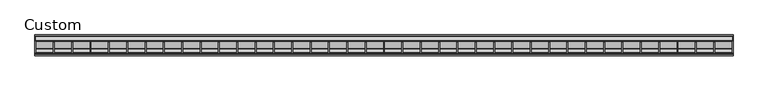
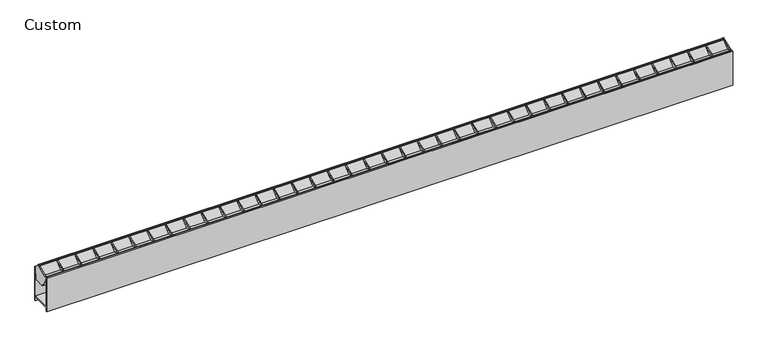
"""IFC4 building model written with IfcOpenShell, lengths in millimetres: light fixture geometry, Lighting-Pendant-Axis-Sculpt-Linear-Wall_Wash : Custom."""

from ifc_helpers import new_model, si_unit, point, frame, frame_2d, origin, place, context, project, spatial, polyline, circle_curve, trimmed, segment, composite_curve, outline, extrude, source, transform, mapped, element, save


def custom_079cd70d(model_context):
    return source(origin(), model_context, "Body", "SweptSolid", [
        extrude(outline(polyline([(-5.8363547, 682.2146029), (-14.2078807, 684.2965748), (-18.4106204, 684.2965748), (-18.4106204, 685.5665748), (-16.744908, 685.5665748), (7.9278061, 695.4099896), (9.8892949, 695.4099896), (-5.8363547, 682.2146029)])), frame((658.6784444, 0.0, 0.0), z_axis=(1.0, 0.0, 0.0), x_axis=(0.0, 1.0, 0.0)), (0.0, 0.0, 1.0), 2.032),
        extrude(outline(polyline([(-5.8363547, 682.2146029), (-14.2078807, 684.2965748), (-18.4106204, 684.2965748), (-18.4106204, 685.5665748), (-16.744908, 685.5665748), (7.9278061, 695.4099896), (9.8892949, 695.4099896), (-5.8363547, 682.2146029)])), frame((619.8728889, 0.0, 0.0), z_axis=(1.0, 0.0, 0.0), x_axis=(0.0, 1.0, 0.0)), (0.0, 0.0, 1.0), 2.032),
        extrude(outline(polyline([(-5.8363547, 682.2146029), (-14.2078807, 684.2965748), (-18.4106204, 684.2965748), (-18.4106204, 685.5665748), (-16.744908, 685.5665748), (7.9278061, 695.4099896), (9.8892949, 695.4099896), (-5.8363547, 682.2146029)])), frame((581.0673333, 0.0, 0.0), z_axis=(1.0, 0.0, 0.0), x_axis=(0.0, 1.0, 0.0)), (0.0, 0.0, 1.0), 2.032),
        extrude(outline(polyline([(-5.8363547, 682.2146029), (-14.2078807, 684.2965748), (-18.4106204, 684.2965748), (-18.4106204, 685.5665748), (-16.744908, 685.5665748), (7.9278061, 695.4099896), (9.8892949, 695.4099896), (-5.8363547, 682.2146029)])), frame((542.2617778, 0.0, 0.0), z_axis=(1.0, 0.0, 0.0), x_axis=(0.0, 1.0, 0.0)), (0.0, 0.0, 1.0), 2.032),
        extrude(outline(polyline([(-5.8363547, 682.2146029), (-14.2078807, 684.2965748), (-18.4106204, 684.2965748), (-18.4106204, 685.5665748), (-16.744908, 685.5665748), (7.9278061, 695.4099896), (9.8892949, 695.4099896), (-5.8363547, 682.2146029)])), frame((503.4562222, 0.0, 0.0), z_axis=(1.0, 0.0, 0.0), x_axis=(0.0, 1.0, 0.0)), (0.0, 0.0, 1.0), 2.032),
        extrude(outline(polyline([(-5.8363547, 682.2146029), (-14.2078807, 684.2965748), (-18.4106204, 684.2965748), (-18.4106204, 685.5665748), (-16.744908, 685.5665748), (7.9278061, 695.4099896), (9.8892949, 695.4099896), (-5.8363547, 682.2146029)])), frame((464.6506667, 0.0, 0.0), z_axis=(1.0, 0.0, 0.0), x_axis=(0.0, 1.0, 0.0)), (0.0, 0.0, 1.0), 2.032),
        extrude(outline(polyline([(-5.8363547, 682.2146029), (-14.2078807, 684.2965748), (-18.4106204, 684.2965748), (-18.4106204, 685.5665748), (-16.744908, 685.5665748), (7.9278061, 695.4099896), (9.8892949, 695.4099896), (-5.8363547, 682.2146029)])), frame((425.8451111, 0.0, 0.0), z_axis=(1.0, 0.0, 0.0), x_axis=(0.0, 1.0, 0.0)), (0.0, 0.0, 1.0), 2.032),
        extrude(outline(polyline([(-5.8363547, 682.2146029), (-14.2078807, 684.2965748), (-18.4106204, 684.2965748), (-18.4106204, 685.5665748), (-16.744908, 685.5665748), (7.9278061, 695.4099896), (9.8892949, 695.4099896), (-5.8363547, 682.2146029)])), frame((387.0395556, 0.0, 0.0), z_axis=(1.0, 0.0, 0.0), x_axis=(0.0, 1.0, 0.0)), (0.0, 0.0, 1.0), 2.032),
        extrude(outline(polyline([(-5.8363547, 682.2146029), (-14.2078807, 684.2965748), (-18.4106204, 684.2965748), (-18.4106204, 685.5665748), (-16.744908, 685.5665748), (7.9278061, 695.4099896), (9.8892949, 695.4099896), (-5.8363547, 682.2146029)])), frame((348.234, 0.0, 0.0), z_axis=(1.0, 0.0, 0.0), x_axis=(0.0, 1.0, 0.0)), (0.0, 0.0, 1.0), 2.032),
        extrude(outline(polyline([(-5.8363547, 682.2146029), (-14.2078807, 684.2965748), (-18.4106204, 684.2965748), (-18.4106204, 685.5665748), (-16.744908, 685.5665748), (7.9278061, 695.4099896), (9.8892949, 695.4099896), (-5.8363547, 682.2146029)])), frame((309.4284444, 0.0, 0.0), z_axis=(1.0, 0.0, 0.0), x_axis=(0.0, 1.0, 0.0)), (0.0, 0.0, 1.0), 2.032),
        extrude(outline(polyline([(-5.8363547, 682.2146029), (-14.2078807, 684.2965748), (-18.4106204, 684.2965748), (-18.4106204, 685.5665748), (-16.744908, 685.5665748), (7.9278061, 695.4099896), (9.8892949, 695.4099896), (-5.8363547, 682.2146029)])), frame((270.6228889, 0.0, 0.0), z_axis=(1.0, 0.0, 0.0), x_axis=(0.0, 1.0, 0.0)), (0.0, 0.0, 1.0), 2.032),
        extrude(outline(polyline([(-5.8363547, 682.2146029), (-14.2078807, 684.2965748), (-18.4106204, 684.2965748), (-18.4106204, 685.5665748), (-16.744908, 685.5665748), (7.9278061, 695.4099896), (9.8892949, 695.4099896), (-5.8363547, 682.2146029)])), frame((231.8173333, 0.0, 0.0), z_axis=(1.0, 0.0, 0.0), x_axis=(0.0, 1.0, 0.0)), (0.0, 0.0, 1.0), 2.032),
        extrude(outline(polyline([(-5.8363547, 682.2146029), (-14.2078807, 684.2965748), (-18.4106204, 684.2965748), (-18.4106204, 685.5665748), (-16.744908, 685.5665748), (7.9278061, 695.4099896), (9.8892949, 695.4099896), (-5.8363547, 682.2146029)])), frame((193.0117778, 0.0, 0.0), z_axis=(1.0, 0.0, 0.0), x_axis=(0.0, 1.0, 0.0)), (0.0, 0.0, 1.0), 2.032),
        extrude(outline(polyline([(-5.8363547, 682.2146029), (-14.2078807, 684.2965748), (-18.4106204, 684.2965748), (-18.4106204, 685.5665748), (-16.744908, 685.5665748), (7.9278061, 695.4099896), (9.8892949, 695.4099896), (-5.8363547, 682.2146029)])), frame((154.2062222, 0.0, 0.0), z_axis=(1.0, 0.0, 0.0), x_axis=(0.0, 1.0, 0.0)), (0.0, 0.0, 1.0), 2.032),
        extrude(outline(polyline([(-5.8363547, 682.2146029), (-14.2078807, 684.2965748), (-18.4106204, 684.2965748), (-18.4106204, 685.5665748), (-16.744908, 685.5665748), (7.9278061, 695.4099896), (9.8892949, 695.4099896), (-5.8363547, 682.2146029)])), frame((115.4006667, 0.0, 0.0), z_axis=(1.0, 0.0, 0.0), x_axis=(0.0, 1.0, 0.0)), (0.0, 0.0, 1.0), 2.032),
        extrude(outline(polyline([(-5.8363547, 682.2146029), (-14.2078807, 684.2965748), (-18.4106204, 684.2965748), (-18.4106204, 685.5665748), (-16.744908, 685.5665748), (7.9278061, 695.4099896), (9.8892949, 695.4099896), (-5.8363547, 682.2146029)])), frame((76.5951111, 0.0, 0.0), z_axis=(1.0, 0.0, 0.0), x_axis=(0.0, 1.0, 0.0)), (0.0, 0.0, 1.0), 2.032),
        extrude(outline(polyline([(-5.8363547, 682.2146029), (-14.2078807, 684.2965748), (-18.4106204, 684.2965748), (-18.4106204, 685.5665748), (-16.744908, 685.5665748), (7.9278061, 695.4099896), (9.8892949, 695.4099896), (-5.8363547, 682.2146029)])), frame((37.7895556, 0.0, 0.0), z_axis=(1.0, 0.0, 0.0), x_axis=(0.0, 1.0, 0.0)), (0.0, 0.0, 1.0), 2.032),
        extrude(outline(polyline([(-5.8363547, 682.2146029), (-14.2078807, 684.2965748), (-18.4106204, 684.2965748), (-18.4106204, 685.5665748), (-16.744908, 685.5665748), (7.9278061, 695.4099896), (9.8892949, 695.4099896), (-5.8363547, 682.2146029)])), frame((-1.016, 0.0, 0.0), z_axis=(1.0, 0.0, 0.0), x_axis=(0.0, 1.0, 0.0)), (0.0, 0.0, 1.0), 2.032),
        extrude(outline(polyline([(-5.8363547, 682.2146029), (-14.2078807, 684.2965748), (-18.4106204, 684.2965748), (-18.4106204, 685.5665748), (-16.744908, 685.5665748), (7.9278061, 695.4099896), (9.8892949, 695.4099896), (-5.8363547, 682.2146029)])), frame((-39.8215556, 0.0, 0.0), z_axis=(1.0, 0.0, 0.0), x_axis=(0.0, 1.0, 0.0)), (0.0, 0.0, 1.0), 2.032),
        extrude(outline(polyline([(-5.8363547, 682.2146029), (-14.2078807, 684.2965748), (-18.4106204, 684.2965748), (-18.4106204, 685.5665748), (-16.744908, 685.5665748), (7.9278061, 695.4099896), (9.8892949, 695.4099896), (-5.8363547, 682.2146029)])), frame((-78.6271111, 0.0, 0.0), z_axis=(1.0, 0.0, 0.0), x_axis=(0.0, 1.0, 0.0)), (0.0, 0.0, 1.0), 2.032),
        extrude(outline(polyline([(-5.8363547, 682.2146029), (-14.2078807, 684.2965748), (-18.4106204, 684.2965748), (-18.4106204, 685.5665748), (-16.744908, 685.5665748), (7.9278061, 695.4099896), (9.8892949, 695.4099896), (-5.8363547, 682.2146029)])), frame((-117.4326667, 0.0, 0.0), z_axis=(1.0, 0.0, 0.0), x_axis=(0.0, 1.0, 0.0)), (0.0, 0.0, 1.0), 2.032),
        extrude(outline(polyline([(-5.8363547, 682.2146029), (-14.2078807, 684.2965748), (-18.4106204, 684.2965748), (-18.4106204, 685.5665748), (-16.744908, 685.5665748), (7.9278061, 695.4099896), (9.8892949, 695.4099896), (-5.8363547, 682.2146029)])), frame((-156.2382222, 0.0, 0.0), z_axis=(1.0, 0.0, 0.0), x_axis=(0.0, 1.0, 0.0)), (0.0, 0.0, 1.0), 2.032),
        extrude(outline(polyline([(-5.8363547, 682.2146029), (-14.2078807, 684.2965748), (-18.4106204, 684.2965748), (-18.4106204, 685.5665748), (-16.744908, 685.5665748), (7.9278061, 695.4099896), (9.8892949, 695.4099896), (-5.8363547, 682.2146029)])), frame((-195.0437778, 0.0, 0.0), z_axis=(1.0, 0.0, 0.0), x_axis=(0.0, 1.0, 0.0)), (0.0, 0.0, 1.0), 2.032),
        extrude(outline(polyline([(-5.8363547, 682.2146029), (-14.2078807, 684.2965748), (-18.4106204, 684.2965748), (-18.4106204, 685.5665748), (-16.744908, 685.5665748), (7.9278061, 695.4099896), (9.8892949, 695.4099896), (-5.8363547, 682.2146029)])), frame((-233.8493333, 0.0, 0.0), z_axis=(1.0, 0.0, 0.0), x_axis=(0.0, 1.0, 0.0)), (0.0, 0.0, 1.0), 2.032),
        extrude(outline(polyline([(-5.8363547, 682.2146029), (-14.2078807, 684.2965748), (-18.4106204, 684.2965748), (-18.4106204, 685.5665748), (-16.744908, 685.5665748), (7.9278061, 695.4099896), (9.8892949, 695.4099896), (-5.8363547, 682.2146029)])), frame((-272.6548889, 0.0, 0.0), z_axis=(1.0, 0.0, 0.0), x_axis=(0.0, 1.0, 0.0)), (0.0, 0.0, 1.0), 2.032),
        extrude(outline(polyline([(-5.8363547, 682.2146029), (-14.2078807, 684.2965748), (-18.4106204, 684.2965748), (-18.4106204, 685.5665748), (-16.744908, 685.5665748), (7.9278061, 695.4099896), (9.8892949, 695.4099896), (-5.8363547, 682.2146029)])), frame((-311.4604444, 0.0, 0.0), z_axis=(1.0, 0.0, 0.0), x_axis=(0.0, 1.0, 0.0)), (0.0, 0.0, 1.0), 2.032),
        extrude(outline(polyline([(-5.8363547, 682.2146029), (-14.2078807, 684.2965748), (-18.4106204, 684.2965748), (-18.4106204, 685.5665748), (-16.744908, 685.5665748), (7.9278061, 695.4099896), (9.8892949, 695.4099896), (-5.8363547, 682.2146029)])), frame((-350.266, 0.0, 0.0), z_axis=(1.0, 0.0, 0.0), x_axis=(0.0, 1.0, 0.0)), (0.0, 0.0, 1.0), 2.032),
        extrude(outline(polyline([(-5.8363547, 682.2146029), (-14.2078807, 684.2965748), (-18.4106204, 684.2965748), (-18.4106204, 685.5665748), (-16.744908, 685.5665748), (7.9278061, 695.4099896), (9.8892949, 695.4099896), (-5.8363547, 682.2146029)])), frame((-389.0715556, 0.0, 0.0), z_axis=(1.0, 0.0, 0.0), x_axis=(0.0, 1.0, 0.0)), (0.0, 0.0, 1.0), 2.032),
        extrude(outline(polyline([(-5.8363547, 682.2146029), (-14.2078807, 684.2965748), (-18.4106204, 684.2965748), (-18.4106204, 685.5665748), (-16.744908, 685.5665748), (7.9278061, 695.4099896), (9.8892949, 695.4099896), (-5.8363547, 682.2146029)])), frame((-427.8771111, 0.0, 0.0), z_axis=(1.0, 0.0, 0.0), x_axis=(0.0, 1.0, 0.0)), (0.0, 0.0, 1.0), 2.032),
        extrude(outline(polyline([(-5.8363547, 682.2146029), (-14.2078807, 684.2965748), (-18.4106204, 684.2965748), (-18.4106204, 685.5665748), (-16.744908, 685.5665748), (7.9278061, 695.4099896), (9.8892949, 695.4099896), (-5.8363547, 682.2146029)])), frame((-466.6826667, 0.0, 0.0), z_axis=(1.0, 0.0, 0.0), x_axis=(0.0, 1.0, 0.0)), (0.0, 0.0, 1.0), 2.032),
        extrude(outline(polyline([(-5.8363547, 682.2146029), (-14.2078807, 684.2965748), (-18.4106204, 684.2965748), (-18.4106204, 685.5665748), (-16.744908, 685.5665748), (7.9278061, 695.4099896), (9.8892949, 695.4099896), (-5.8363547, 682.2146029)])), frame((-505.4882222, 0.0, 0.0), z_axis=(1.0, 0.0, 0.0), x_axis=(0.0, 1.0, 0.0)), (0.0, 0.0, 1.0), 2.032),
        extrude(outline(polyline([(-5.8363547, 682.2146029), (-14.2078807, 684.2965748), (-18.4106204, 684.2965748), (-18.4106204, 685.5665748), (-16.744908, 685.5665748), (7.9278061, 695.4099896), (9.8892949, 695.4099896), (-5.8363547, 682.2146029)])), frame((-544.2937778, 0.0, 0.0), z_axis=(1.0, 0.0, 0.0), x_axis=(0.0, 1.0, 0.0)), (0.0, 0.0, 1.0), 2.032),
        extrude(outline(polyline([(-5.8363547, 682.2146029), (-14.2078807, 684.2965748), (-18.4106204, 684.2965748), (-18.4106204, 685.5665748), (-16.744908, 685.5665748), (7.9278061, 695.4099896), (9.8892949, 695.4099896), (-5.8363547, 682.2146029)])), frame((-583.0993333, 0.0, 0.0), z_axis=(1.0, 0.0, 0.0), x_axis=(0.0, 1.0, 0.0)), (0.0, 0.0, 1.0), 2.032),
        extrude(outline(polyline([(-5.8363547, 682.2146029), (-14.2078807, 684.2965748), (-18.4106204, 684.2965748), (-18.4106204, 685.5665748), (-16.744908, 685.5665748), (7.9278061, 695.4099896), (9.8892949, 695.4099896), (-5.8363547, 682.2146029)])), frame((-621.9048889, 0.0, 0.0), z_axis=(1.0, 0.0, 0.0), x_axis=(0.0, 1.0, 0.0)), (0.0, 0.0, 1.0), 2.032),
        extrude(outline(polyline([(-5.8363547, 682.2146029), (-14.2078807, 684.2965748), (-18.4106204, 684.2965748), (-18.4106204, 685.5665748), (-16.744908, 685.5665748), (7.9278061, 695.4099896), (9.8892949, 695.4099896), (-5.8363547, 682.2146029)])), frame((-660.7104444, 0.0, 0.0), z_axis=(1.0, 0.0, 0.0), x_axis=(0.0, 1.0, 0.0)), (0.0, 0.0, 1.0), 2.032),
        extrude(outline(polyline([(-5.8363547, 682.2146029), (-14.2078807, 684.2965748), (-18.4106204, 684.2965748), (-18.4106204, 685.5665748), (-16.744908, 685.5665748), (7.9278061, 695.4099896), (9.8892949, 695.4099896), (-5.8363547, 682.2146029)])), frame((697.484, 0.0, 0.0), z_axis=(1.0, 0.0, 0.0), x_axis=(0.0, 1.0, 0.0)), (0.0, 0.0, 1.0), 2.032),
        extrude(outline(polyline([(-5.8363547, 682.2146029), (-14.2078807, 684.2965748), (-18.4106204, 684.2965748), (-18.4106204, 685.5665748), (-16.744908, 685.5665748), (7.9278061, 695.4099896), (9.8892949, 695.4099896), (-5.8363547, 682.2146029)])), frame((-699.516, 0.0, 0.0), z_axis=(1.0, 0.0, 0.0), x_axis=(0.0, 1.0, 0.0)), (0.0, 0.0, 1.0), 2.032),
        extrude(outline(polyline([(10.7115769, 694.4408289), (9.6339319, 693.5365774), (10.4695558, 692.5407196), (-3.9474006, 680.4434568), (-4.7830245, 681.4393145), (-6.0010352, 680.4172822), (-6.8009754, 681.4039199), (9.8952367, 695.4137053), (10.7115769, 694.4408289)])), frame((-736.6, 0.0, 0.0), z_axis=(1.0, 0.0, 0.0), x_axis=(0.0, 1.0, 0.0)), (0.0, 0.0, 1.0), 1473.2),
        extrude(outline(composite_curve([segment(trimmed(circle_curve(frame_2d((-18.4106204, 683.7099613)), 1.27), [point((-18.6311536, 682.4592555))], [point((-19.6806204, 683.7099613))], False, "CARTESIAN"), True, "CONTINUOUS"), segment(polyline([(-19.6806204, 683.7099613), (-19.6806204, 685.1843048)]), True, "CONTINUOUS"), segment(trimmed(circle_curve(frame_2d((-18.3992812, 685.1843048)), 1.2813393), [point((-19.6806204, 685.1843048))], [point((-18.5693704, 686.4543048))], False, "CARTESIAN"), True, "CONTINUOUS"), segment(polyline([(-18.5693704, 686.4543048), (-17.7756204, 686.4543048), (-17.7756204, 685.5653048), (-18.5693704, 685.5653048), (-18.5693704, 684.0413048), (-15.5485613, 684.0413048), (-14.6006204, 684.2953048), (-6.7713711, 682.4433809), (-6.3875029, 681.7508645), (-6.9955507, 681.2406519), (-5.7672074, 679.7767693), (-4.6118225, 680.7462523), (2.5359723, 672.9094954), (8.5722525, 672.9094954), (9.7905492, 671.6911987), (9.7905492, 665.5434954), (16.1405454, 665.5434954), (16.1405454, 679.5134954), (18.4270034, 679.5134954), (18.4270034, 680.8992892), (15.6582538, 684.1989565), (17.1905146, 685.4846759), (10.5155288, 693.4396142), (11.1235766, 693.9498269), (9.8801395, 695.4316974), (8.2841416, 695.4316974), (8.7171308, 696.1246249), (9.8337174, 696.6452978)]), True, "CONTINUOUS"), segment(trimmed(circle_curve(frame_2d((10.3704425, 695.4942869)), 1.27), [point((9.8337174, 696.6452978))], [point((11.343319, 696.3106272))], False, "CARTESIAN"), True, "CONTINUOUS"), segment(polyline([(11.343319, 696.3106272), (19.3994218, 686.7097377)]), True, "CONTINUOUS"), segment(trimmed(circle_curve(frame_2d((18.4265454, 685.8933974)), 1.27), [point((19.3994218, 686.7097377))], [point((19.6965454, 685.8933974))], False, "CARTESIAN"), True, "CONTINUOUS"), segment(polyline([(19.6965454, 685.8933974), (19.6965454, 678.2434954), (17.4105454, 678.2434954), (17.4105454, 656.6535), (-2.5330565, 656.6535), (-2.5330565, 665.5434954), (-0.6234508, 665.5434954), (-0.6234508, 669.8147627), (1.3174135, 671.7556271), (-4.9578706, 678.810814), (-5.9475652, 677.9305234), (-8.2506204, 680.6288874), (-18.6311536, 682.4592555)]), True, "CONTINUOUS")], self_intersect=False)), frame((-736.6, 0.0, 0.0), z_axis=(1.0, 0.0, 0.0), x_axis=(0.0, 1.0, 0.0)), (0.0, 0.0, 1.0), 1473.2),
        extrude(outline(composite_curve([segment(trimmed(circle_curve(frame_2d((-18.4106204, 683.7099613)), 1.27), [point((-19.3812922, 682.8910008))], [point((-19.6806204, 683.7099613))], False, "CARTESIAN"), True, "CONTINUOUS"), segment(polyline([(-19.6806204, 683.7099613), (-19.6806204, 685.1843048)]), True, "CONTINUOUS"), segment(trimmed(circle_curve(frame_2d((-18.4106204, 685.1843048)), 1.27), [point((-19.6806204, 685.1843048))], [point((-18.4106204, 686.4543048))], False, "CARTESIAN"), True, "CONTINUOUS"), segment(polyline([(-18.4106204, 686.4543048), (-16.4805897, 686.4543048)]), True, "CONTINUOUS"), segment(trimmed(circle_curve(frame_2d((-16.4805897, 689.6293048)), 3.175), [point((-16.4805897, 686.4543048))], [point((-15.3040698, 686.6803344))], True, "CARTESIAN"), True, "CONTINUOUS"), segment(polyline([(-15.3040698, 686.6803344), (9.8609876, 696.7201743)]), True, "CONTINUOUS"), segment(trimmed(circle_curve(frame_2d((10.331786, 695.5368159)), 1.273573), [point((9.8609876, 696.7201743))], [point((11.3433494, 696.3105909))], False, "CARTESIAN"), True, "CONTINUOUS"), segment(polyline([(11.3433494, 696.3105909), (19.3994218, 686.7097377)]), True, "CONTINUOUS"), segment(trimmed(circle_curve(frame_2d((18.4265454, 685.8933974)), 1.27), [point((19.3994218, 686.7097377))], [point((19.6965454, 685.8933974))], False, "CARTESIAN"), True, "CONTINUOUS"), segment(polyline([(19.6965454, 685.8933974), (19.6766789, 678.5030724), (17.4938945, 665.1638345)]), True, "CONTINUOUS"), segment(trimmed(circle_curve(frame_2d((23.7605481, 664.1383821)), 6.35), [point((17.4938945, 665.1638345))], [point((17.4105481, 664.1383821))], True, "CARTESIAN"), True, "CONTINUOUS"), segment(polyline([(17.4105481, 664.1383821), (17.4105481, 662.3685)]), True, "CONTINUOUS"), segment(trimmed(circle_curve(frame_2d((14.2355481, 662.3685)), 3.175), [point((17.4105481, 662.3685))], [point((14.2355481, 659.1935))], False, "CARTESIAN"), True, "CONTINUOUS"), segment(polyline([(14.2355481, 659.1935), (-3.4088865, 659.1935)]), True, "CONTINUOUS"), segment(trimmed(circle_curve(frame_2d((-3.4109097, 662.36493)), 3.1714306), [point((-3.4088865, 659.1935))], [point((-6.1327574, 660.7371963))], False, "CARTESIAN"), True, "CONTINUOUS"), segment(polyline([(-6.1327574, 660.7371963), (-19.3812922, 682.8910008)]), True, "CONTINUOUS")], self_intersect=False)), frame((736.6, 0.0, 0.0), z_axis=(1.0, 0.0, 0.0), x_axis=(0.0, 1.0, 0.0)), (0.0, 0.0, 1.0), 1.905),
        extrude(outline(composite_curve([segment(trimmed(circle_curve(frame_2d((-18.4106204, 683.7099613)), 1.27), [point((-19.3812922, 682.8910008))], [point((-19.6806204, 683.7099613))], False, "CARTESIAN"), True, "CONTINUOUS"), segment(polyline([(-19.6806204, 683.7099613), (-19.6806204, 685.1843048)]), True, "CONTINUOUS"), segment(trimmed(circle_curve(frame_2d((-18.4106204, 685.1843048)), 1.27), [point((-19.6806204, 685.1843048))], [point((-18.4106204, 686.4543048))], False, "CARTESIAN"), True, "CONTINUOUS"), segment(polyline([(-18.4106204, 686.4543048), (-16.4805897, 686.4543048)]), True, "CONTINUOUS"), segment(trimmed(circle_curve(frame_2d((-16.4805897, 689.6293048)), 3.175), [point((-16.4805897, 686.4543048))], [point((-15.3040698, 686.6803344))], True, "CARTESIAN"), True, "CONTINUOUS"), segment(polyline([(-15.3040698, 686.6803344), (9.8609876, 696.7201743)]), True, "CONTINUOUS"), segment(trimmed(circle_curve(frame_2d((10.331786, 695.5368159)), 1.273573), [point((9.8609876, 696.7201743))], [point((11.3433494, 696.3105909))], False, "CARTESIAN"), True, "CONTINUOUS"), segment(polyline([(11.3433494, 696.3105909), (19.3994218, 686.7097377)]), True, "CONTINUOUS"), segment(trimmed(circle_curve(frame_2d((18.4265454, 685.8933974)), 1.27), [point((19.3994218, 686.7097377))], [point((19.6965454, 685.8933974))], False, "CARTESIAN"), True, "CONTINUOUS"), segment(polyline([(19.6965454, 685.8933974), (19.6766789, 678.5030724), (17.4938945, 665.1638345)]), True, "CONTINUOUS"), segment(trimmed(circle_curve(frame_2d((23.7605481, 664.1383821)), 6.35), [point((17.4938945, 665.1638345))], [point((17.4105481, 664.1383821))], True, "CARTESIAN"), True, "CONTINUOUS"), segment(polyline([(17.4105481, 664.1383821), (17.4105481, 662.3685)]), True, "CONTINUOUS"), segment(trimmed(circle_curve(frame_2d((14.2355481, 662.3685)), 3.175), [point((17.4105481, 662.3685))], [point((14.2355481, 659.1935))], False, "CARTESIAN"), True, "CONTINUOUS"), segment(polyline([(14.2355481, 659.1935), (-3.4088865, 659.1935)]), True, "CONTINUOUS"), segment(trimmed(circle_curve(frame_2d((-3.4109097, 662.36493)), 3.1714306), [point((-3.4088865, 659.1935))], [point((-6.1327574, 660.7371963))], False, "CARTESIAN"), True, "CONTINUOUS"), segment(polyline([(-6.1327574, 660.7371963), (-19.3812922, 682.8910008)]), True, "CONTINUOUS")], self_intersect=False)), frame((-738.505, 0.0, 0.0), z_axis=(1.0, 0.0, 0.0), x_axis=(0.0, 1.0, 0.0)), (0.0, 0.0, 1.0), 1.905),
        extrude(outline(polyline([(-20.193, 620.0775), (20.193, 620.0775), (20.193, 686.59375), (22.225, 686.59375), (22.225, 609.6), (20.193, 609.6), (20.193, 618.0455), (-20.193, 618.0455), (-20.193, 609.6), (-22.225, 609.6), (-22.225, 686.59375), (-20.193, 686.59375), (-20.193, 620.0775)])), frame((-738.505, 0.0, 0.0), z_axis=(1.0, 0.0, 0.0), x_axis=(0.0, 1.0, 0.0)), (0.0, 0.0, 1.0), 1477.01),
    ])


if __name__ == "__main__":
    model = new_model("IFC4")
    model_context = context("Model", 3, world=origin())
    ifc_project = project(units=[si_unit("LENGTHUNIT", "METRE", prefix="MILLI")], contexts=[model_context])
    site = spatial("IfcSite", under=ifc_project)
    building = spatial("IfcBuilding", under=site)
    placement = place(None, origin())
    custom_shape = custom_079cd70d(model_context)
    element("IfcLightFixture", 1, ObjectType="Lighting-Pendant-Axis-Sculpt-Linear-Wall_Wash : Custom", at=placement, inside=building, context=model_context, shape_type="MappedRepresentation", body=[
        mapped(custom_shape, transform((0.0, 0.0, 0.0), x_axis=(1.0, 0.0, 0.0), y_axis=(0.0, 1.0, 0.0), z_axis=(0.0, 0.0, 1.0))),
    ])
    save(model, "model.ifc")
